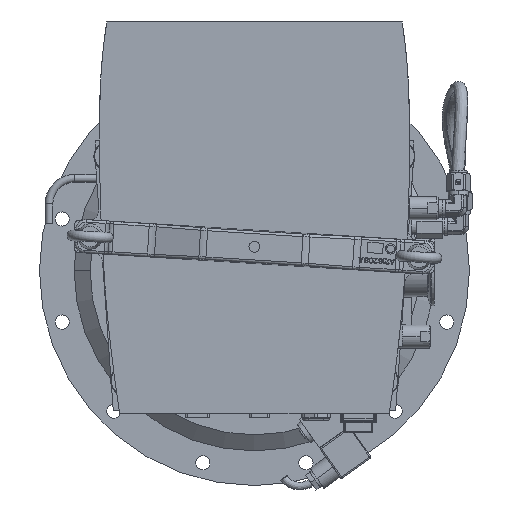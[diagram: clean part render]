
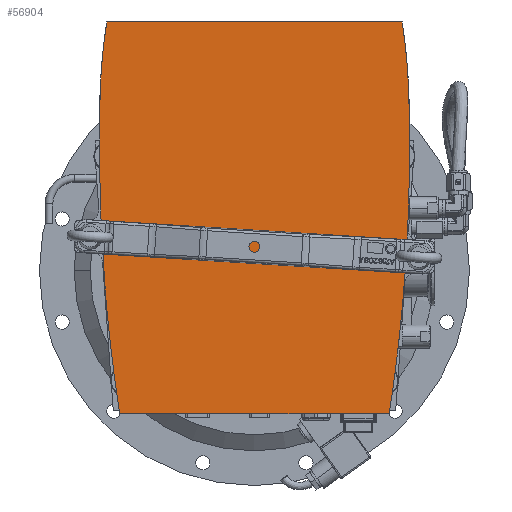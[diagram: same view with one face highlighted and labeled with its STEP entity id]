
A CAD part, front view. The second image highlights one B-rep face of the part: STEP entity #56904.
In plain terms, the highlighted planar face has unit normal (0, -1, 0).
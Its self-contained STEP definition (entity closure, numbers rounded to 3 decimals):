
#175=CARTESIAN_POINT('',(-1177.573,-133.4,88.6));
#176=DIRECTION('',(0.,-1.,0.));
#177=DIRECTION('',(0.995,0.,-0.1));
#178=AXIS2_PLACEMENT_3D('',#175,#176,#177);
#180=DIRECTION('',(0.108,0.,0.994));
#181=VECTOR('',#180,21.233);
#182=CARTESIAN_POINT('',(111.698,-133.4,-61.844));
#183=LINE('',#182,#181);
#184=CARTESIAN_POINT('',(-1177.573,-133.4,88.6));
#185=DIRECTION('',(0.,-1.,0.));
#186=DIRECTION('',(0.988,0.,-0.154));
#187=AXIS2_PLACEMENT_3D('',#184,#185,#186);
#189=DIRECTION('',(1.,0.,0.));
#190=VECTOR('',#189,209.891);
#191=CARTESIAN_POINT('',(-104.945,-133.4,-111.4));
#192=LINE('',#191,#190);
#193=CARTESIAN_POINT('',(1177.573,-133.4,88.6));
#194=DIRECTION('',(0.,-1.,0.));
#195=DIRECTION('',(-0.997,0.,-0.084));
#196=AXIS2_PLACEMENT_3D('',#193,#194,#195);
#198=CARTESIAN_POINT('',(1281.834,-133.4,97.345));
#199=DIRECTION('',(0.,-1.,0.));
#200=DIRECTION('',(-1.,0.,0.028));
#201=AXIS2_PLACEMENT_3D('',#198,#199,#200);
#203=CARTESIAN_POINT('',(340.523,-133.4,123.6));
#204=DIRECTION('',(0.,-1.,0.));
#205=DIRECTION('',(-0.988,0.,0.152));
#206=AXIS2_PLACEMENT_3D('',#203,#204,#205);
#208=DIRECTION('',(-1.,0.,0.));
#209=VECTOR('',#208,230.2);
#210=CARTESIAN_POINT('',(115.1,-133.4,193.6));
#211=LINE('',#210,#209);
#212=CARTESIAN_POINT('',(-340.523,-133.4,123.6));
#213=DIRECTION('',(0.,-1.,0.));
#214=DIRECTION('',(1.,0.,0.028));
#215=AXIS2_PLACEMENT_3D('',#212,#213,#214);
#217=CARTESIAN_POINT('',(-1282.134,-133.4,97.353));
#218=DIRECTION('',(0.,-1.,0.));
#219=DIRECTION('',(1.,0.,-0.027));
#220=AXIS2_PLACEMENT_3D('',#217,#218,#219);
#222=DIRECTION('',(0.035,0.,0.999));
#223=VECTOR('',#222,20.925);
#224=CARTESIAN_POINT('',(119.563,-133.4,38.18));
#225=LINE('',#224,#223);
#226=CARTESIAN_POINT('',(-1282.134,-133.4,97.353));
#227=DIRECTION('',(0.,-1.,0.));
#228=DIRECTION('',(0.997,0.,-0.083));
#229=AXIS2_PLACEMENT_3D('',#226,#227,#228);
#50239=CARTESIAN_POINT('',(113.987,-133.4,-40.734));
#50240=CARTESIAN_POINT('',(115.922,-133.4,-19.682));
#50241=VERTEX_POINT('',#50239);
#50242=VERTEX_POINT('',#50240);
#50243=CARTESIAN_POINT('',(119.563,-133.4,38.18));
#50244=VERTEX_POINT('',#50243);
#50245=CARTESIAN_POINT('',(120.29,-133.4,59.092));
#50246=VERTEX_POINT('',#50245);
#50247=CARTESIAN_POINT('',(120.267,-133.4,136.444));
#50248=VERTEX_POINT('',#50247);
#50249=CARTESIAN_POINT('',(115.1,-133.4,193.6));
#50250=VERTEX_POINT('',#50249);
#50251=CARTESIAN_POINT('',(-115.1,-133.4,193.6));
#50252=VERTEX_POINT('',#50251);
#50253=CARTESIAN_POINT('',(-120.267,-133.4,136.452));
#50254=VERTEX_POINT('',#50253);
#50255=CARTESIAN_POINT('',(-115.904,-133.4,-19.889));
#50256=VERTEX_POINT('',#50255);
#50257=CARTESIAN_POINT('',(-104.945,-133.4,-111.4));
#50258=VERTEX_POINT('',#50257);
#50259=CARTESIAN_POINT('',(104.945,-133.4,-111.4));
#50260=VERTEX_POINT('',#50259);
#50261=CARTESIAN_POINT('',(111.698,-133.4,-61.844));
#50262=VERTEX_POINT('',#50261);
#56874=CARTESIAN_POINT('',(0.,-133.4,194.6));
#56875=DIRECTION('',(0.,-1.,0.));
#56876=DIRECTION('',(0.,0.,-1.));
#56877=AXIS2_PLACEMENT_3D('',#56874,#56875,#56876);
#56878=PLANE('',#56877);
#56879=ORIENTED_EDGE('',*,*,#56864,.F.);
#56881=ORIENTED_EDGE('',*,*,#56880,.F.);
#56883=ORIENTED_EDGE('',*,*,#56882,.F.);
#56885=ORIENTED_EDGE('',*,*,#56884,.F.);
#56887=ORIENTED_EDGE('',*,*,#56886,.F.);
#56889=ORIENTED_EDGE('',*,*,#56888,.F.);
#56891=ORIENTED_EDGE('',*,*,#56890,.F.);
#56893=ORIENTED_EDGE('',*,*,#56892,.F.);
#56895=ORIENTED_EDGE('',*,*,#56894,.F.);
#56897=ORIENTED_EDGE('',*,*,#56896,.F.);
#56899=ORIENTED_EDGE('',*,*,#56898,.F.);
#56901=ORIENTED_EDGE('',*,*,#56900,.F.);
#56902=EDGE_LOOP('',(#56879,#56881,#56883,#56885,#56887,#56889,#56891,#56893,
#56895,#56897,#56899,#56901));
#56903=FACE_OUTER_BOUND('',#56902,.F.);
#56904=ADVANCED_FACE('',(#56903),#56878,.T.);
#179=CIRCLE('',#178,1298.019);
#188=CIRCLE('',#187,1298.019);
#197=CIRCLE('',#196,1298.019);
#202=CIRCLE('',#201,1402.646);
#207=CIRCLE('',#206,460.969);
#216=CIRCLE('',#215,460.969);
#221=CIRCLE('',#220,1402.946);
#230=CIRCLE('',#229,1402.946);
#56864=EDGE_CURVE('',#50241,#50242,#179,.T.);
#56880=EDGE_CURVE('',#50262,#50241,#183,.T.);
#56882=EDGE_CURVE('',#50260,#50262,#188,.T.);
#56884=EDGE_CURVE('',#50258,#50260,#192,.T.);
#56886=EDGE_CURVE('',#50256,#50258,#197,.T.);
#56888=EDGE_CURVE('',#50254,#50256,#202,.T.);
#56890=EDGE_CURVE('',#50252,#50254,#207,.T.);
#56892=EDGE_CURVE('',#50250,#50252,#211,.T.);
#56894=EDGE_CURVE('',#50248,#50250,#216,.T.);
#56896=EDGE_CURVE('',#50246,#50248,#221,.T.);
#56898=EDGE_CURVE('',#50244,#50246,#225,.T.);
#56900=EDGE_CURVE('',#50242,#50244,#230,.T.);
